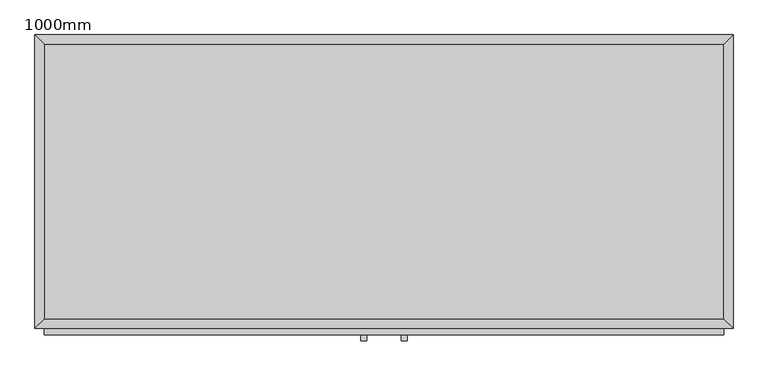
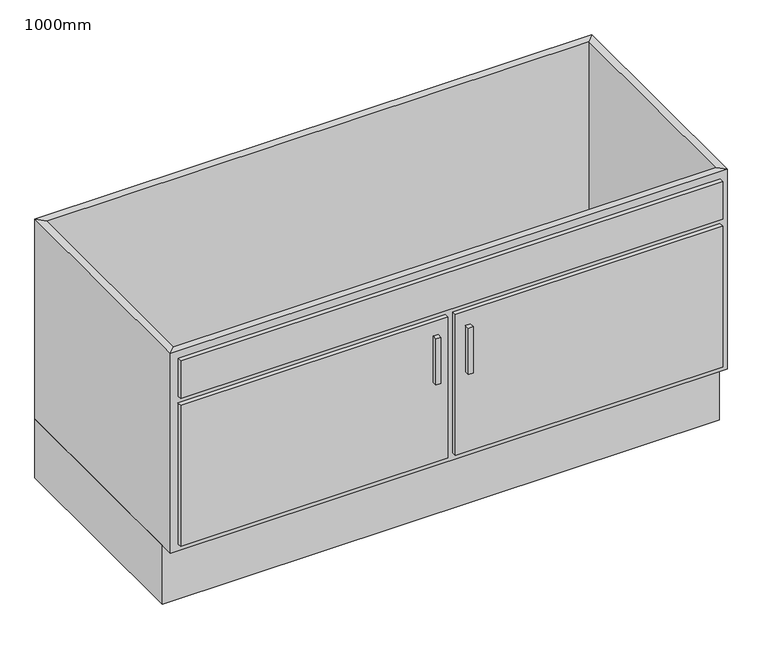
"""IFC4 building model written with IfcOpenShell, lengths in millimetres: furniture geometry, 化粧台 - 両開きドア シンク ユニット - 3D : 1000mm."""

from ifc_helpers import new_model, si_unit, frame, origin, origin_with_axes, place, context, project, spatial, polyline, outline, extrude, faceted_brep, source, transform, mapped, element, save


def furniture_1000mm_264b8faa(model_context):
    return source(origin(), model_context, "Body", "SolidModel", [
        extrude(outline(polyline([(-16.1872951, -625.4), (-28.8872951, -625.4), (-28.8872951, -612.7), (-16.1872951, -612.7), (-16.1872951, -625.4)])), frame((0.0, 0.0, 397.469895), z_axis=(0.0, 0.0, 1.0), x_axis=(1.0, 0.0, 0.0)), (0.0, 0.0, 1.0), 124.730105),
        extrude(outline(polyline([(66.3627049, -625.4), (53.6627049, -625.4), (53.6627049, -612.7), (66.3627049, -612.7), (66.3627049, -625.4)])), frame((0.0, 0.0, 397.469895), z_axis=(0.0, 0.0, 1.0), x_axis=(1.0, 0.0, 0.0)), (0.0, 0.0, 1.0), 124.730105),
        extrude(outline(polyline([(712.1877049, -19.05), (712.1877049, -580.95), (-674.7122951, -580.95), (-674.7122951, -19.05), (712.1877049, -19.05)])), frame((0.0, 0.0, 160.0), z_axis=(0.0, 0.0, 1.0), x_axis=(1.0, 0.0, 0.0)), (0.0, 0.0, 1.0), 19.05),
        faceted_brep([(712.1877049, -580.95, 700.0), (712.1877049, -580.95, 160.0), (-674.7122951, -580.95, 160.0), (-674.7122951, -580.95, 700.0), (731.2377049, -600.0, 700.0), (-693.7622951, -600.0, 700.0), (731.2377049, -600.0, 160.0), (-693.7622951, -600.0, 160.0), (-674.7122951, -19.05, 160.0), (-674.7122951, -19.05, 700.0), (-693.7622951, 0.0, 700.0), (-693.7622951, 0.0, 160.0), (712.1877049, -19.05, 160.0), (712.1877049, -19.05, 700.0), (731.2377049, 0.0, 700.0), (731.2377049, 0.0, 160.0)], [[[0, 1, 2, 3]], [[4, 0, 3, 5]], [[6, 4, 5, 7]], [[1, 6, 7, 2]], [[3, 2, 8, 9]], [[5, 3, 9, 10]], [[7, 5, 10, 11]], [[2, 7, 11, 8]], [[9, 8, 12, 13]], [[10, 9, 13, 14]], [[11, 10, 14, 15]], [[8, 11, 15, 12]], [[13, 12, 1, 0]], [[14, 13, 0, 4]], [[15, 14, 4, 6]], [[12, 15, 6, 1]]]),
        extrude(outline(polyline([(731.2377049, 0.0), (731.2377049, -565.0), (-693.7622951, -565.0), (-693.7622951, 0.0), (731.2377049, 0.0)])), origin_with_axes(), (0.0, 0.0, 1.0), 160.0),
        extrude(outline(polyline([(9.2127049, -612.7), (-674.7122951, -612.7), (-674.7122951, -600.0), (9.2127049, -600.0), (9.2127049, -612.7)])), frame((0.0, 0.0, 179.05), z_axis=(0.0, 0.0, 1.0), x_axis=(1.0, 0.0, 0.0)), (0.0, 0.0, 1.0), 381.25),
        extrude(outline(polyline([(712.1877049, -612.7), (28.2627049, -612.7), (28.2627049, -600.0), (712.1877049, -600.0), (712.1877049, -612.7)])), frame((0.0, 0.0, 179.05), z_axis=(0.0, 0.0, 1.0), x_axis=(1.0, 0.0, 0.0)), (0.0, 0.0, 1.0), 381.25),
        extrude(outline(polyline([(712.1877049, -612.7), (-674.7122951, -612.7), (-674.7122951, -600.0), (712.1877049, -600.0), (712.1877049, -612.7)])), frame((0.0, 0.0, 579.35), z_axis=(0.0, 0.0, 1.0), x_axis=(1.0, 0.0, 0.0)), (0.0, 0.0, 1.0), 101.6),
    ])


if __name__ == "__main__":
    model = new_model("IFC4")
    model_context = context("Model", 3, world=origin())
    ifc_project = project(units=[si_unit("LENGTHUNIT", "METRE", prefix="MILLI")], contexts=[model_context])
    site = spatial("IfcSite", under=ifc_project)
    building = spatial("IfcBuilding", under=site)
    placement = place(None, origin())
    furniture_1000mm_shape = furniture_1000mm_264b8faa(model_context)
    element("IfcFurniture", 1, ObjectType="化粧台 - 両開きドア シンク ユニット - 3D : 1000mm", at=placement, inside=building, context=model_context, shape_type="MappedRepresentation", body=[
        mapped(furniture_1000mm_shape, transform((0.0, 0.0, 0.0), x_axis=(1.0, 0.0, 0.0), y_axis=(0.0, 1.0, 0.0), z_axis=(0.0, 0.0, 1.0))),
    ])
    save(model, "model.ifc")
